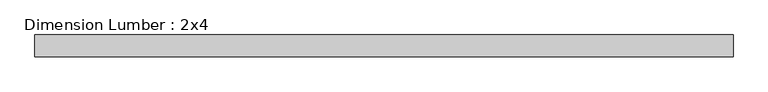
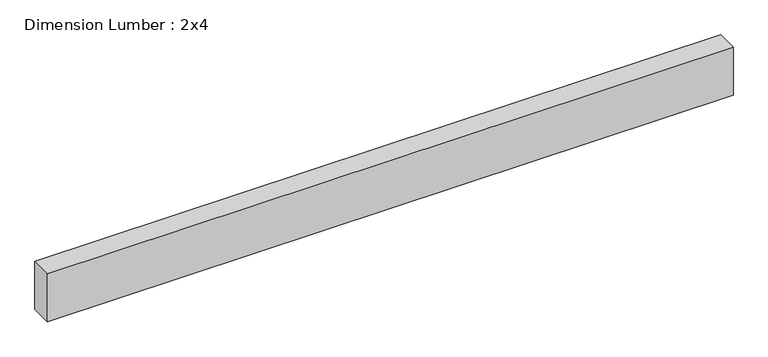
"""IFC4 building model written with IfcOpenShell, lengths in millimetres: beam geometry, Dimension Lumber : 2x4."""

from ifc_helpers import new_model, si_unit, frame, origin, place, context, project, spatial, polyline, outline, extrude, source, transform, mapped, element, save


def dimension_lumber_2x4_8b234c55(model_context):
    return source(origin(), model_context, "Body", "SweptSolid", [
        extrude(outline(polyline([(603.25, 19.05), (603.25, -19.05), (-603.25, -19.05), (-603.25, 19.05), (603.25, 19.05)])), frame((0.0, 0.0, -44.45), z_axis=(0.0, 0.0, 1.0), x_axis=(1.0, 0.0, 0.0)), (0.0, 0.0, 1.0), 88.9),
    ])


if __name__ == "__main__":
    model = new_model("IFC4")
    model_context = context("Model", 3, world=origin())
    ifc_project = project(units=[si_unit("LENGTHUNIT", "METRE", prefix="MILLI")], contexts=[model_context])
    site = spatial("IfcSite", under=ifc_project)
    building = spatial("IfcBuilding", under=site)
    placement = place(None, origin())
    dimension_lumber_2x4_shape = dimension_lumber_2x4_8b234c55(model_context)
    element("IfcBeam", 1, ObjectType="Dimension Lumber : 2x4", at=placement, inside=building, context=model_context, shape_type="MappedRepresentation", body=[
        mapped(dimension_lumber_2x4_shape, transform((0.0, 0.0, 0.0), x_axis=(1.0, 0.0, 0.0), y_axis=(0.0, 1.0, 0.0), z_axis=(0.0, 0.0, 1.0))),
    ])
    save(model, "model.ifc")
